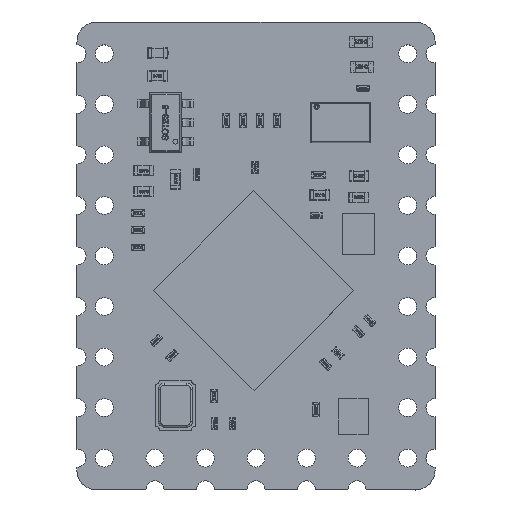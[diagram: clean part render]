
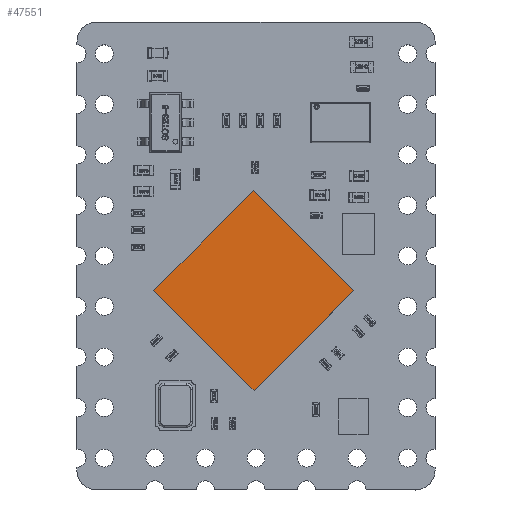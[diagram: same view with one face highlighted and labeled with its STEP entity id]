
A CAD part, top view. The second image highlights one B-rep face of the part: STEP entity #47551.
In plain terms, the highlighted planar face has unit normal (0, 0, 1).
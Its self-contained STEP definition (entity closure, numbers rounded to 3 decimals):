
#47237 = VERTEX_POINT('',#47238);
#47238 = CARTESIAN_POINT('',(-0.009,5.029,0.98)
  );
#47245 = PLANE('',#47246);
#47246 = AXIS2_PLACEMENT_3D('',#47247,#47248,#47249);
#47247 = CARTESIAN_POINT('',(-0.009,5.029,0.));
#47248 = DIRECTION('',(0.707,-0.707,0.));
#47249 = DIRECTION('',(-0.707,-0.707,0.));
#47257 = PLANE('',#47258);
#47258 = AXIS2_PLACEMENT_3D('',#47259,#47260,#47261);
#47259 = CARTESIAN_POINT('',(5.029,-0.009,0.));
#47260 = DIRECTION('',(-0.707,-0.707,0.));
#47261 = DIRECTION('',(-0.707,0.707,0.));
#47269 = EDGE_CURVE('',#47237,#47270,#47272,.T.);
#47270 = VERTEX_POINT('',#47271);
#47271 = CARTESIAN_POINT('',(-5.029,0.009,0.98)
  );
#47272 = SURFACE_CURVE('',#47273,(#47277,#47284),.PCURVE_S1.);
#47273 = LINE('',#47274,#47275);
#47274 = CARTESIAN_POINT('',(-0.009,5.029,0.98)
  );
#47275 = VECTOR('',#47276,1.);
#47276 = DIRECTION('',(-0.707,-0.707,0.));
#47277 = PCURVE('',#47245,#47278);
#47278 = DEFINITIONAL_REPRESENTATION('',(#47279),#47283);
#47279 = LINE('',#47280,#47281);
#47280 = CARTESIAN_POINT('',(0.,-0.98));
#47281 = VECTOR('',#47282,1.);
#47282 = DIRECTION('',(1.,0.));
#47283 = ( GEOMETRIC_REPRESENTATION_CONTEXT(2) 
PARAMETRIC_REPRESENTATION_CONTEXT() REPRESENTATION_CONTEXT('2D SPACE',''
  ) );
#47284 = PCURVE('',#47285,#47290);
#47285 = PLANE('',#47286);
#47286 = AXIS2_PLACEMENT_3D('',#47287,#47288,#47289);
#47287 = CARTESIAN_POINT('',(-0.009,5.029,0.98)
  );
#47288 = DIRECTION('',(0.,0.,-1.));
#47289 = DIRECTION('',(-1.,0.,0.));
#47290 = DEFINITIONAL_REPRESENTATION('',(#47291),#47295);
#47291 = LINE('',#47292,#47293);
#47292 = CARTESIAN_POINT('',(0.,0.));
#47293 = VECTOR('',#47294,1.);
#47294 = DIRECTION('',(0.707,-0.707));
#47295 = ( GEOMETRIC_REPRESENTATION_CONTEXT(2) 
PARAMETRIC_REPRESENTATION_CONTEXT() REPRESENTATION_CONTEXT('2D SPACE',''
  ) );
#47313 = PLANE('',#47314);
#47314 = AXIS2_PLACEMENT_3D('',#47315,#47316,#47317);
#47315 = CARTESIAN_POINT('',(-5.029,0.009,0.));
#47316 = DIRECTION('',(0.707,0.707,0.));
#47317 = DIRECTION('',(0.707,-0.707,0.));
#47355 = EDGE_CURVE('',#47270,#47356,#47358,.T.);
#47356 = VERTEX_POINT('',#47357);
#47357 = CARTESIAN_POINT('',(0.009,-5.029,0.98)
  );
#47358 = SURFACE_CURVE('',#47359,(#47363,#47370),.PCURVE_S1.);
#47359 = LINE('',#47360,#47361);
#47360 = CARTESIAN_POINT('',(-5.029,0.009,0.98)
  );
#47361 = VECTOR('',#47362,1.);
#47362 = DIRECTION('',(0.707,-0.707,0.));
#47363 = PCURVE('',#47313,#47364);
#47364 = DEFINITIONAL_REPRESENTATION('',(#47365),#47369);
#47365 = LINE('',#47366,#47367);
#47366 = CARTESIAN_POINT('',(0.,-0.98));
#47367 = VECTOR('',#47368,1.);
#47368 = DIRECTION('',(1.,0.));
#47369 = ( GEOMETRIC_REPRESENTATION_CONTEXT(2) 
PARAMETRIC_REPRESENTATION_CONTEXT() REPRESENTATION_CONTEXT('2D SPACE',''
  ) );
#47370 = PCURVE('',#47285,#47371);
#47371 = DEFINITIONAL_REPRESENTATION('',(#47372),#47376);
#47372 = LINE('',#47373,#47374);
#47373 = CARTESIAN_POINT('',(5.02,-5.02));
#47374 = VECTOR('',#47375,1.);
#47375 = DIRECTION('',(-0.707,-0.707));
#47376 = ( GEOMETRIC_REPRESENTATION_CONTEXT(2) 
PARAMETRIC_REPRESENTATION_CONTEXT() REPRESENTATION_CONTEXT('2D SPACE',''
  ) );
#47394 = PLANE('',#47395);
#47395 = AXIS2_PLACEMENT_3D('',#47396,#47397,#47398);
#47396 = CARTESIAN_POINT('',(0.009,-5.029,0.));
#47397 = DIRECTION('',(-0.707,0.707,0.));
#47398 = DIRECTION('',(0.707,0.707,0.));
#47431 = EDGE_CURVE('',#47356,#47432,#47434,.T.);
#47432 = VERTEX_POINT('',#47433);
#47433 = CARTESIAN_POINT('',(5.029,-0.009,0.98));
#47434 = SURFACE_CURVE('',#47435,(#47439,#47446),.PCURVE_S1.);
#47435 = LINE('',#47436,#47437);
#47436 = CARTESIAN_POINT('',(0.009,-5.029,0.98)
  );
#47437 = VECTOR('',#47438,1.);
#47438 = DIRECTION('',(0.707,0.707,0.));
#47439 = PCURVE('',#47394,#47440);
#47440 = DEFINITIONAL_REPRESENTATION('',(#47441),#47445);
#47441 = LINE('',#47442,#47443);
#47442 = CARTESIAN_POINT('',(0.,-0.98));
#47443 = VECTOR('',#47444,1.);
#47444 = DIRECTION('',(1.,0.));
#47445 = ( GEOMETRIC_REPRESENTATION_CONTEXT(2) 
PARAMETRIC_REPRESENTATION_CONTEXT() REPRESENTATION_CONTEXT('2D SPACE',''
  ) );
#47446 = PCURVE('',#47285,#47447);
#47447 = DEFINITIONAL_REPRESENTATION('',(#47448),#47452);
#47448 = LINE('',#47449,#47450);
#47449 = CARTESIAN_POINT('',(-0.018,-10.059));
#47450 = VECTOR('',#47451,1.);
#47451 = DIRECTION('',(-0.707,0.707));
#47452 = ( GEOMETRIC_REPRESENTATION_CONTEXT(2) 
PARAMETRIC_REPRESENTATION_CONTEXT() REPRESENTATION_CONTEXT('2D SPACE',''
  ) );
#47502 = EDGE_CURVE('',#47432,#47237,#47503,.T.);
#47503 = SURFACE_CURVE('',#47504,(#47508,#47515),.PCURVE_S1.);
#47504 = LINE('',#47505,#47506);
#47505 = CARTESIAN_POINT('',(5.029,-0.009,0.98));
#47506 = VECTOR('',#47507,1.);
#47507 = DIRECTION('',(-0.707,0.707,0.));
#47508 = PCURVE('',#47257,#47509);
#47509 = DEFINITIONAL_REPRESENTATION('',(#47510),#47514);
#47510 = LINE('',#47511,#47512);
#47511 = CARTESIAN_POINT('',(0.,-0.98));
#47512 = VECTOR('',#47513,1.);
#47513 = DIRECTION('',(1.,0.));
#47514 = ( GEOMETRIC_REPRESENTATION_CONTEXT(2) 
PARAMETRIC_REPRESENTATION_CONTEXT() REPRESENTATION_CONTEXT('2D SPACE',''
  ) );
#47515 = PCURVE('',#47285,#47516);
#47516 = DEFINITIONAL_REPRESENTATION('',(#47517),#47521);
#47517 = LINE('',#47518,#47519);
#47518 = CARTESIAN_POINT('',(-5.038,-5.038));
#47519 = VECTOR('',#47520,1.);
#47520 = DIRECTION('',(0.707,0.707));
#47521 = ( GEOMETRIC_REPRESENTATION_CONTEXT(2) 
PARAMETRIC_REPRESENTATION_CONTEXT() REPRESENTATION_CONTEXT('2D SPACE',''
  ) );
#47551 = ADVANCED_FACE('',(#47552),#47285,.F.);
#47552 = FACE_BOUND('',#47553,.T.);
#47553 = EDGE_LOOP('',(#47554,#47555,#47556,#47557));
#47554 = ORIENTED_EDGE('',*,*,#47269,.T.);
#47555 = ORIENTED_EDGE('',*,*,#47355,.T.);
#47556 = ORIENTED_EDGE('',*,*,#47431,.T.);
#47557 = ORIENTED_EDGE('',*,*,#47502,.T.);
